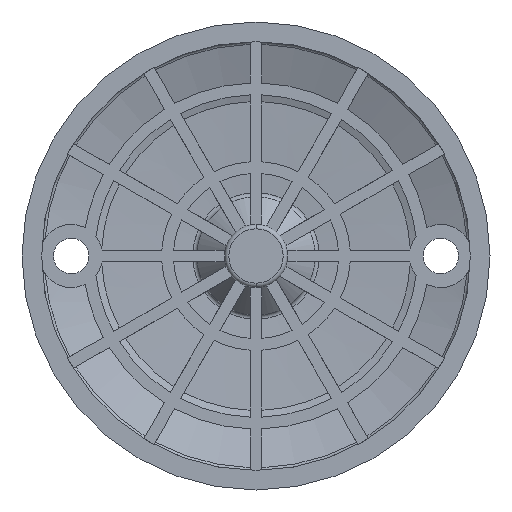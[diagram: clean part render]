
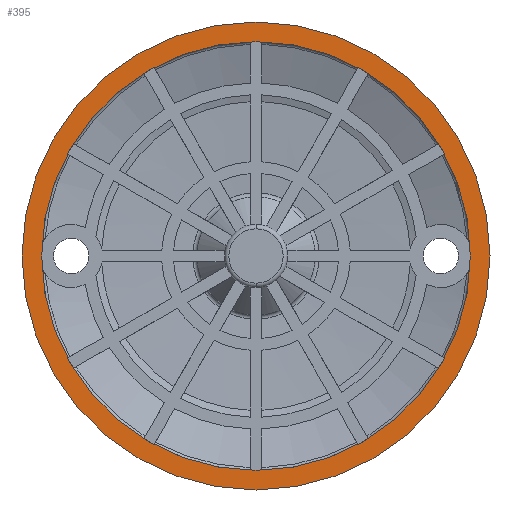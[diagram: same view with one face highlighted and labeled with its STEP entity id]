
A CAD part, front view. The second image highlights one B-rep face of the part: STEP entity #395.
In plain terms, the highlighted planar face has unit normal (0, -1, 0).
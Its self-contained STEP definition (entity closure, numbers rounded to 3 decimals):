
#395=ADVANCED_FACE('NONE',(#1006,#1007),#1008,.T.);
#1006=FACE_OUTER_BOUND('',#1849,.T.);
#1007=FACE_BOUND('',#1850,.T.);
#1008=PLANE('',#1851);
#1849=EDGE_LOOP('',(#3018,#3019));
#1850=EDGE_LOOP('',(#3020,#3021));
#1851=AXIS2_PLACEMENT_3D('',#3022,#3023,#3024);
#3018=ORIENTED_EDGE('',*,*,#5352,.F.);
#3019=ORIENTED_EDGE('',*,*,#5157,.F.);
#3020=ORIENTED_EDGE('',*,*,#5332,.T.);
#3021=ORIENTED_EDGE('',*,*,#5160,.T.);
#3022=CARTESIAN_POINT('',(5.0,0.,0.0));
#3023=DIRECTION('',(0.0,-1.0,0.0));
#3024=DIRECTION('',(0.0,0.0,-1.0));
#5157=EDGE_CURVE('NONE',#6214,#6216,#6217,.T.);
#5160=EDGE_CURVE('NONE',#6220,#6221,#6222,.T.);
#5332=EDGE_CURVE('NONE',#6221,#6220,#6497,.T.);
#5352=EDGE_CURVE('NONE',#6216,#6214,#6528,.T.);
#6214=VERTEX_POINT('NONE',#7774);
#6216=VERTEX_POINT('NONE',#7777);
#6217=CIRCLE('',#7778,59.5);
#6220=VERTEX_POINT('NONE',#7782);
#6221=VERTEX_POINT('NONE',#7783);
#6222=CIRCLE('',#7784,54.5);
#6497=CIRCLE('',#8492,54.5);
#6528=CIRCLE('',#8534,59.5);
#7774=CARTESIAN_POINT('',(59.5,0.0,59.5));
#7777=CARTESIAN_POINT('',(59.5,0.0,-59.5));
#7778=AXIS2_PLACEMENT_3D('',#10449,#10450,#10451);
#7782=CARTESIAN_POINT('',(59.5,0.0,-54.5));
#7783=CARTESIAN_POINT('',(59.5,0.0,54.5));
#7784=AXIS2_PLACEMENT_3D('',#10453,#10454,#10455);
#8492=AXIS2_PLACEMENT_3D('',#10652,#10653,#10654);
#8534=AXIS2_PLACEMENT_3D('',#10687,#10688,#10689);
#10449=CARTESIAN_POINT('',(59.5,0.0,0.0));
#10450=DIRECTION('',(-0.0,1.0,0.0));
#10451=DIRECTION('',(0.0,0.0,1.0));
#10453=CARTESIAN_POINT('',(59.5,0.0,0.0));
#10454=DIRECTION('',(-0.0,1.0,0.0));
#10455=DIRECTION('',(0.0,0.0,1.0));
#10652=CARTESIAN_POINT('',(59.5,0.0,0.0));
#10653=DIRECTION('',(-0.0,1.0,0.0));
#10654=DIRECTION('',(0.0,0.0,1.0));
#10687=CARTESIAN_POINT('',(59.5,0.0,0.0));
#10688=DIRECTION('',(-0.0,1.0,0.0));
#10689=DIRECTION('',(0.0,0.0,1.0));
